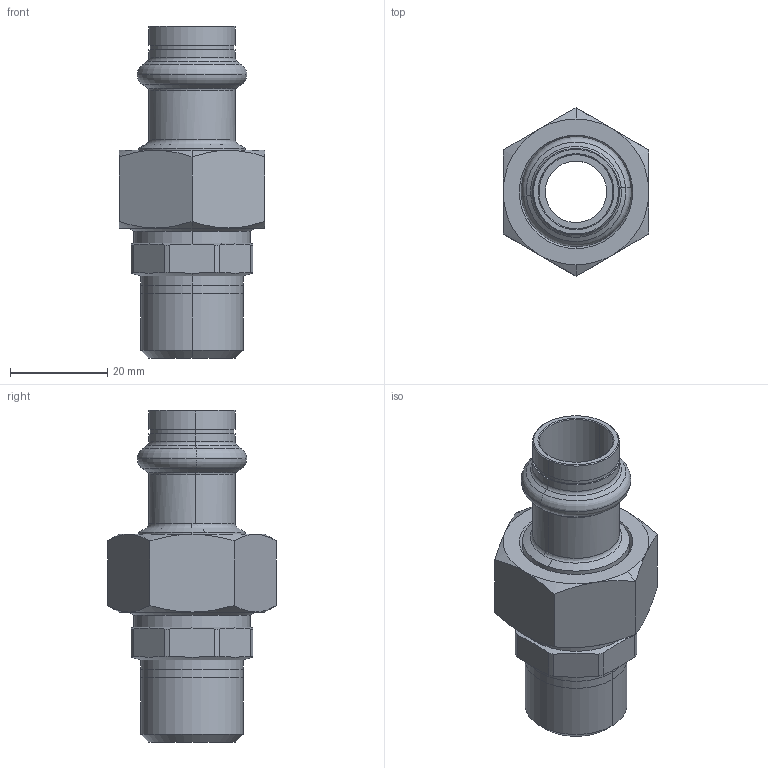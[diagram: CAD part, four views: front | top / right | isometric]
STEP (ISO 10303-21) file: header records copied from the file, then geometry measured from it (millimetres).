
FILE_DESCRIPTION(('CoCreate Modeling STEP Export'),'2;1');
FILE_NAME('8331GVW1512.stp','2013-03-05T12:40:44',(''),(''),'CoCreate Modeling STEP processor for AP214 (Solid Model)','CoCreate Modeling 17.00A 17-Jun-2010 (C) Parametric Technology GmbH','');
FILE_SCHEMA(('AUTOMOTIVE_DESIGN { 1 0 10303 214 1 1 1 1 }'));
Length unit declared in the file: millimetre
Products named in the file (4): DRAAD; MOER; Wartelpuntstuk_C-pr_15x3.1; 8331GVW1512
Assembly tree (3 placements, depth 2):
  8331GVW1512
    Wartelpuntstuk_C-pr_15x3.1
    MOER
    DRAAD
Bounding box: 30 x 34.64 x 68.3 mm (x, y, z)
Volume: 17597.2 mm3; surface area: 12339.7 mm2
Topology: 3 solids, 3 shells, 134 faces, 304 edges, 180 vertices
Faces by surface type: cylinder 48, cone 48, plane 24, torus 14
Entity records: 4790 total; most frequent: CARTESIAN_POINT 2141, ORIENTED_EDGE 608, DIRECTION 400, EDGE_CURVE 304, VERTEX_POINT 180, AXIS2_PLACEMENT_3D 151, EDGE_LOOP 144, FACE_OUTER_BOUND 134
